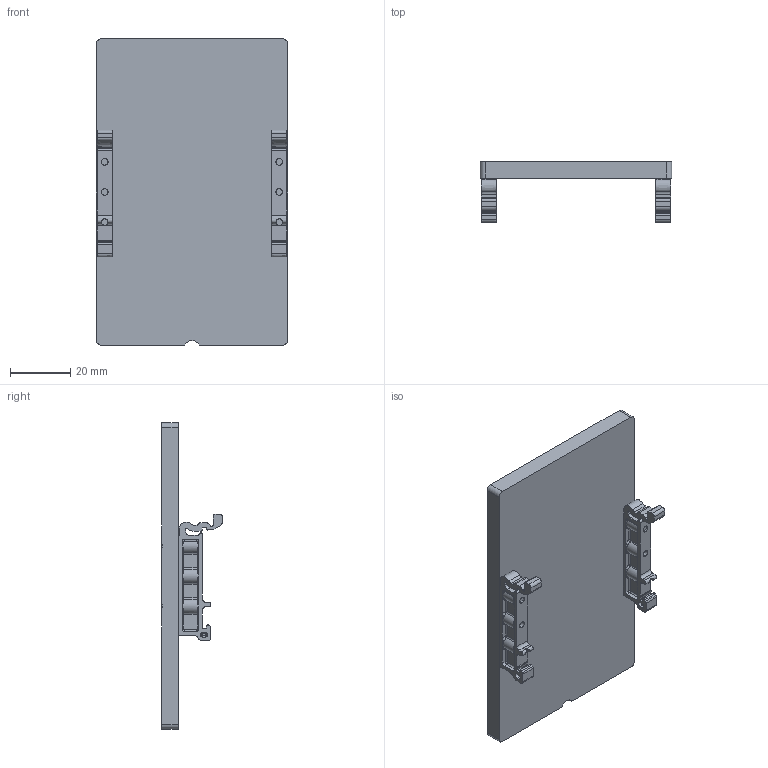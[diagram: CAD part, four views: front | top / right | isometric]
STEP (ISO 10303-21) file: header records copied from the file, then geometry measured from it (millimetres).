
FILE_DESCRIPTION (( 'STEP AP214' ), '1' );
FILE_NAME ('dinpp11-2540a_rev_a.step', '2023-07-31T20:08:31', ( '' ), ( '' ), 'SwSTEP 2.0', 'SolidWorks 2018', '' );
FILE_SCHEMA (( 'AUTOMOTIVE_DESIGN' ));
Length unit declared in the file: inch
Products named in the file (4): dinm05; dinpp11-2540a_rev_a; #4 Flathead Screw 0.5 length; dinpp11-2540a
Assembly tree (7 placements, depth 2):
  dinpp11-2540a_rev_a
    dinpp11-2540a
    dinm05  x2
    #4 Flathead Screw 0.5 length  x4
Bounding box: 63.5 x 20.24 x 101.6 mm (x, y, z)
Volume: 38345.6 mm3; surface area: 18885.3 mm2
Topology: 7 solids, 7 shells, 814 faces, 2104 edges, 1280 vertices
Faces by surface type: plane 327, bspline 158, cone 152, cylinder 113, sphere 40, torus 24
Entity records: 14459 total; most frequent: CARTESIAN_POINT 5049, ORIENTED_EDGE 2020, DIRECTION 1828, EDGE_CURVE 1010, AXIS2_PLACEMENT_3D 636, VERTEX_POINT 628, VECTOR 556, LINE 556
